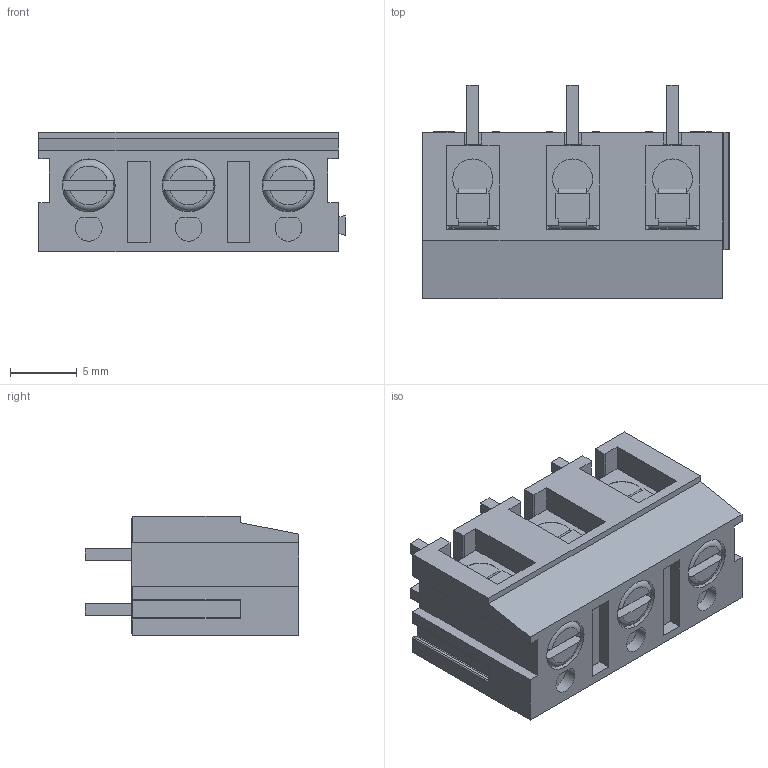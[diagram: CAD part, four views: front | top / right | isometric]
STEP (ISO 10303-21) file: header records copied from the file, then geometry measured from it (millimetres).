
FILE_DESCRIPTION((''),'2;1');
FILE_NAME('3PIN_SW0001','2019-05-13T',('zhenbing.lai'),(''),'CREO PARAMETRIC BY PTC INC, 2016260','CREO PARAMETRIC BY PTC INC, 2016260','');
FILE_SCHEMA(('CONFIG_CONTROL_DESIGN'));
Length unit declared in the file: millimetre
Products named in the file (1): 3PIN_SW0001
Bounding box: 23 x 16.05 x 9 mm (x, y, z)
Volume: 2133.6 mm3; surface area: 1724.6 mm2
Topology: 1 solids, 4 shells, 307 faces, 831 edges, 549 vertices
Faces by surface type: plane 222, cylinder 61, torus 24
Entity records: 9825 total; most frequent: CARTESIAN_POINT 1918, ORIENTED_EDGE 1662, DIRECTION 1600, EDGE_CURVE 831, VECTOR 592, LINE 592, VERTEX_POINT 549, AXIS2_PLACEMENT_3D 504
